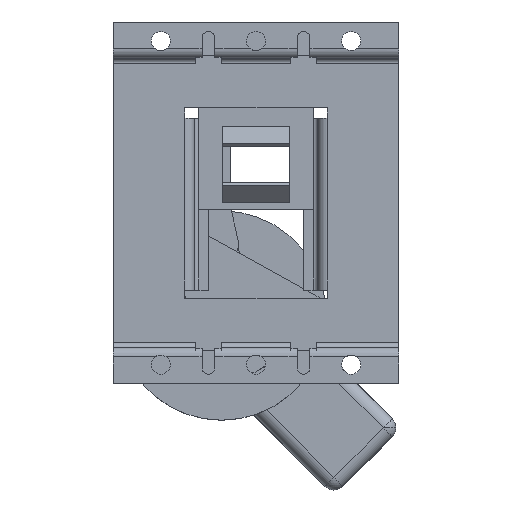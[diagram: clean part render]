
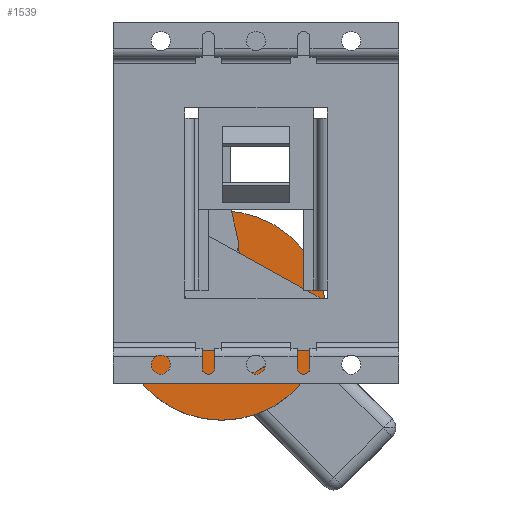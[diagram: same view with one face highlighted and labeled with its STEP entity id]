
A CAD part, top view. The second image highlights one B-rep face of the part: STEP entity #1539.
In plain terms, the highlighted planar face has unit normal (0, 0, 1).
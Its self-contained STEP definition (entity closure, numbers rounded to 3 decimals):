
#7 = DIRECTION ( 'NONE',  ( -0.707, 0.707, 0. ) ) ;
#171 = DIRECTION ( 'NONE',  ( -1., 0., 0. ) ) ;
#1122 = AXIS2_PLACEMENT_3D ( 'NONE', #8087, #8112, #1165 ) ;
#1165 = DIRECTION ( 'NONE',  ( -1., 0., 0. ) ) ;
#1232 = ORIENTED_EDGE ( 'NONE', *, *, #8637, .T. ) ;
#1235 = VECTOR ( 'NONE', #4663, 1000. ) ;
#1242 = CARTESIAN_POINT ( 'NONE',  ( -11., -29.343, -134. ) ) ;
#1258 = CIRCLE ( 'NONE', #7382, 33. ) ;
#1539 = ADVANCED_FACE ( 'NONE', ( #8107, #2401 ), #7363, .F. ) ;
#1703 = DIRECTION ( 'NONE',  ( 0.707, 0.707, 0. ) ) ;
#1759 = VERTEX_POINT ( 'NONE', #1242 ) ;
#2180 = CARTESIAN_POINT ( 'NONE',  ( -10.824, -35.253, -134. ) ) ;
#2207 = VECTOR ( 'NONE', #7, 1000. ) ;
#2317 = CARTESIAN_POINT ( 'NONE',  ( -5.343, -35., -134. ) ) ;
#2401 = FACE_BOUND ( 'NONE', #6878, .T. ) ;
#2443 = CARTESIAN_POINT ( 'NONE',  ( 22.176, -35.253, -134. ) ) ;
#2451 = VERTEX_POINT ( 'NONE', #2443 ) ;
#2693 = DIRECTION ( 'NONE',  ( -0.707, -0.707, 0. ) ) ;
#2698 = EDGE_CURVE ( 'NONE', #6886, #5898, #5085, .T. ) ;
#2728 = DIRECTION ( 'NONE',  ( 0., 0., -1. ) ) ;
#2816 = CARTESIAN_POINT ( 'NONE',  ( -16.657, -35., -134. ) ) ;
#2861 = ORIENTED_EDGE ( 'NONE', *, *, #6181, .F. ) ;
#2862 = DIRECTION ( 'NONE',  ( 0., 0., -1. ) ) ;
#3537 = ORIENTED_EDGE ( 'NONE', *, *, #7570, .F. ) ;
#3859 = ORIENTED_EDGE ( 'NONE', *, *, #8028, .T. ) ;
#3872 = ORIENTED_EDGE ( 'NONE', *, *, #7779, .T. ) ;
#4663 = DIRECTION ( 'NONE',  ( 0.707, -0.707, 0. ) ) ;
#4687 = VECTOR ( 'NONE', #1703, 1000. ) ;
#5004 = CARTESIAN_POINT ( 'NONE',  ( -11., -29.343, -134. ) ) ;
#5085 = LINE ( 'NONE', #7604, #6734 ) ;
#5238 = CIRCLE ( 'NONE', #6756, 33. ) ;
#5303 = CARTESIAN_POINT ( 'NONE',  ( -11., -29.343, -134. ) ) ;
#5743 = LINE ( 'NONE', #5303, #1235 ) ;
#5898 = VERTEX_POINT ( 'NONE', #6933 ) ;
#6181 = EDGE_CURVE ( 'NONE', #7432, #2451, #5238, .T. ) ;
#6593 = VERTEX_POINT ( 'NONE', #8650 ) ;
#6734 = VECTOR ( 'NONE', #2693, 1000. ) ;
#6756 = AXIS2_PLACEMENT_3D ( 'NONE', #6869, #2728, #7564 ) ;
#6869 = CARTESIAN_POINT ( 'NONE',  ( -10.824, -35.253, -134. ) ) ;
#6878 = EDGE_LOOP ( 'NONE', ( #1232, #7617, #3872, #3859 ) ) ;
#6886 = VERTEX_POINT ( 'NONE', #2317 ) ;
#6933 = CARTESIAN_POINT ( 'NONE',  ( -11., -40.657, -134. ) ) ;
#7329 = EDGE_LOOP ( 'NONE', ( #3537, #2861 ) ) ;
#7363 = PLANE ( 'NONE',  #1122 ) ;
#7382 = AXIS2_PLACEMENT_3D ( 'NONE', #2180, #2862, #171 ) ;
#7432 = VERTEX_POINT ( 'NONE', #7780 ) ;
#7564 = DIRECTION ( 'NONE',  ( -1., 0., 0. ) ) ;
#7570 = EDGE_CURVE ( 'NONE', #2451, #7432, #1258, .T. ) ;
#7604 = CARTESIAN_POINT ( 'NONE',  ( -5.343, -35., -134. ) ) ;
#7617 = ORIENTED_EDGE ( 'NONE', *, *, #2698, .T. ) ;
#7779 = EDGE_CURVE ( 'NONE', #5898, #6593, #8341, .T. ) ;
#7780 = CARTESIAN_POINT ( 'NONE',  ( -43.824, -35.253, -134. ) ) ;
#8028 = EDGE_CURVE ( 'NONE', #6593, #1759, #8884, .T. ) ;
#8087 = CARTESIAN_POINT ( 'NONE',  ( -10.824, -35.253, -134. ) ) ;
#8107 = FACE_OUTER_BOUND ( 'NONE', #7329, .T. ) ;
#8112 = DIRECTION ( 'NONE',  ( 0., 0., -1. ) ) ;
#8341 = LINE ( 'NONE', #2816, #2207 ) ;
#8637 = EDGE_CURVE ( 'NONE', #1759, #6886, #5743, .T. ) ;
#8650 = CARTESIAN_POINT ( 'NONE',  ( -16.657, -35., -134. ) ) ;
#8884 = LINE ( 'NONE', #5004, #4687 ) ;
